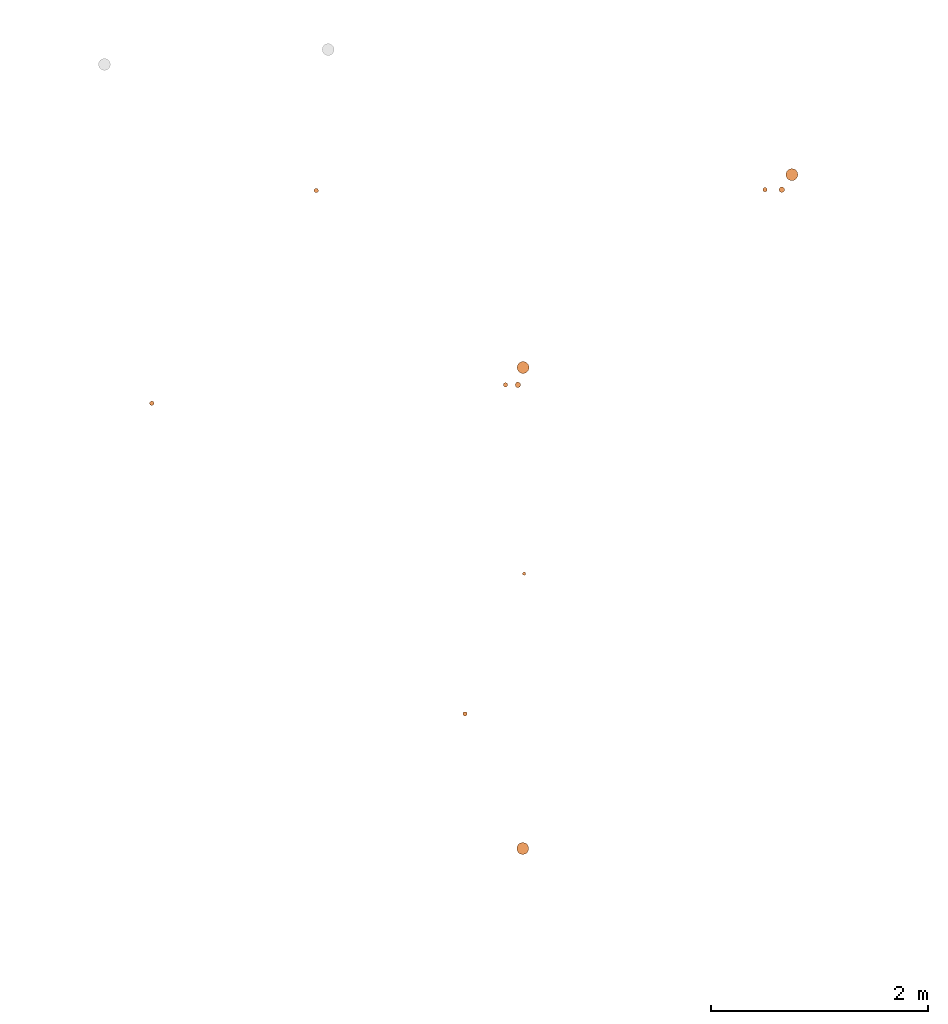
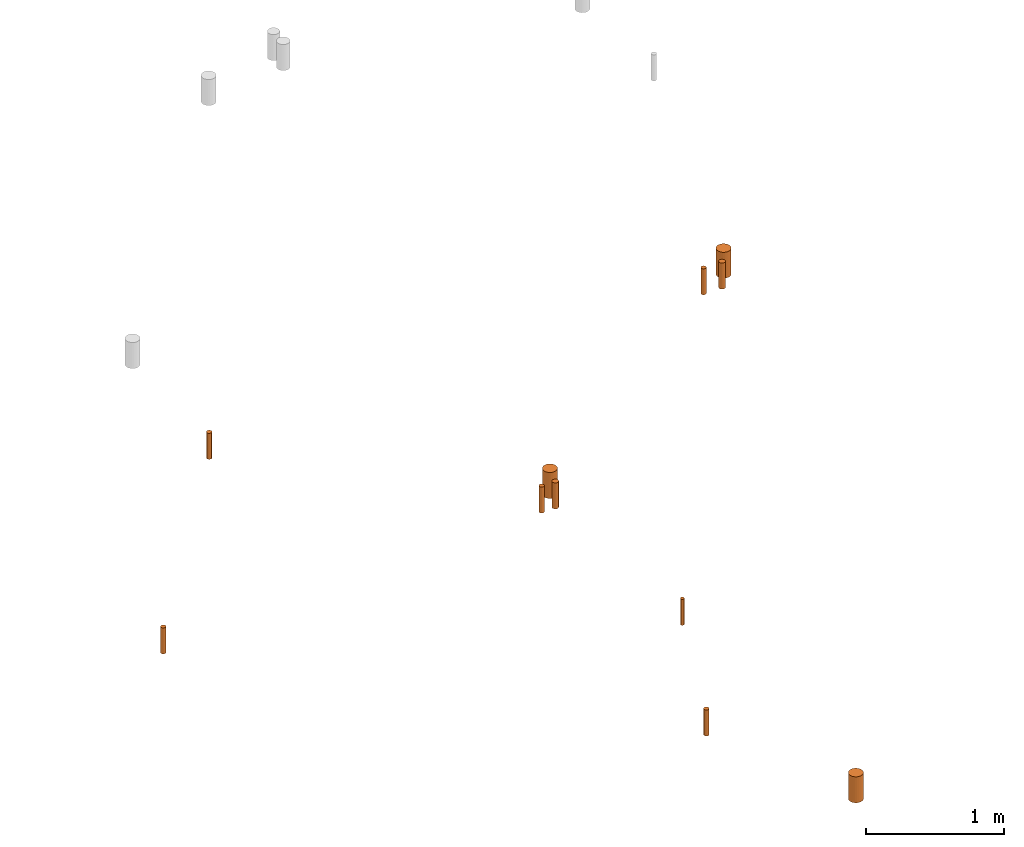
# One storey, part 2 of 16: 11 proxies.
"""IFC2X3 building model written with IfcOpenShell, lengths in centimetres."""

from ifc_helpers import new_model, entity, si_unit, converted_unit, derived_unit, direction, frame, origin, origin_2d_with_axis, place, context, subcontext, project, spatial, circle, extrude, source, transform, mapped, material, type_object, type_shapes, element, save


model = new_model("IFC2X3")

# Units and contexts
model_context = context("Model", 3, precision=0.001, world=origin(), true_north=direction((6.12303176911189e-17, 1.0)))
body_context = subcontext(model_context, "Body", "Model", "MODEL_VIEW")
ifc_project = project(units=[si_unit("LENGTHUNIT", "METRE", prefix="CENTI"), si_unit("AREAUNIT", "SQUARE_METRE"), si_unit("VOLUMEUNIT", "CUBIC_METRE"), converted_unit("PLANEANGLEUNIT", "DEGREE", entity("IfcRatioMeasure", 0.0174532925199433), si_unit("PLANEANGLEUNIT", "RADIAN"), dimensions=[0, 0, 0, 0, 0, 0, 0]), si_unit("MASSUNIT", "GRAM", prefix="KILO"), derived_unit("MASSDENSITYUNIT", [(si_unit("MASSUNIT", "GRAM", prefix="KILO"), 1), (si_unit("LENGTHUNIT", "METRE"), -3)]), si_unit("TIMEUNIT", "SECOND"), si_unit("FREQUENCYUNIT", "HERTZ"), si_unit("THERMODYNAMICTEMPERATUREUNIT", "DEGREE_CELSIUS"), derived_unit("THERMALTRANSMITTANCEUNIT", [(si_unit("MASSUNIT", "GRAM", prefix="KILO"), 1), (si_unit("THERMODYNAMICTEMPERATUREUNIT", "KELVIN"), -1), (si_unit("TIMEUNIT", "SECOND"), -3)]), derived_unit("VOLUMETRICFLOWRATEUNIT", [(si_unit("LENGTHUNIT", "METRE"), 3), (si_unit("TIMEUNIT", "SECOND"), -1)]), si_unit("ELECTRICCURRENTUNIT", "AMPERE"), si_unit("ELECTRICVOLTAGEUNIT", "VOLT"), si_unit("POWERUNIT", "WATT"), si_unit("FORCEUNIT", "NEWTON"), si_unit("ILLUMINANCEUNIT", "LUX"), si_unit("LUMINOUSFLUXUNIT", "LUMEN"), si_unit("LUMINOUSINTENSITYUNIT", "CANDELA"), derived_unit("USERDEFINED", [(si_unit("MASSUNIT", "GRAM", prefix="KILO"), -1), (si_unit("LENGTHUNIT", "METRE"), -2), (si_unit("TIMEUNIT", "SECOND"), 3), (si_unit("LUMINOUSFLUXUNIT", "LUMEN"), 1)]), derived_unit("LINEARVELOCITYUNIT", [(si_unit("LENGTHUNIT", "METRE"), 1), (si_unit("TIMEUNIT", "SECOND"), -1)]), si_unit("PRESSUREUNIT", "PASCAL"), derived_unit("USERDEFINED", [(si_unit("LENGTHUNIT", "METRE"), -2), (si_unit("MASSUNIT", "GRAM", prefix="KILO"), 1), (si_unit("TIMEUNIT", "SECOND"), -2)])], contexts=[model_context])

# Site, building, storey
site_placement = place(None, origin())
site = spatial("IfcSite", under=ifc_project, at=site_placement, Name="Default", CompositionType="ELEMENT")
building_placement = place(site_placement, origin())
building = spatial("IfcBuilding", under=site, at=building_placement, Name="CAGE 03", CompositionType="ELEMENT")
storey_placement = place(building_placement, frame((0.0, 0.0, 65.0)))
storey = spatial("IfcBuildingStorey", under=building, at=storey_placement, Name="Ac RDC", CompositionType="ELEMENT", Elevation=64.9999999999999)

# Proxies
ifc_material = material(Name="BBGO_Résa")
building_element_proxy_type_1 = type_object("IfcBuildingElementProxyType", Name="Ø40", PredefinedType="NOTDEFINED", material=ifc_material)
shared_shape_1 = source(origin(), body_context, "Body", "SweptSolid", [
    extrude(circle(Radius=2.0, at=origin_2d_with_axis()), frame((3783.7053778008, 3913.19907538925, 317.0)), (0.0, 0.0, 1.0), 22.9999999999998),
])
type_shapes(building_element_proxy_type_1, [shared_shape_1])
proxy_1_placement = place(storey_placement, frame((0.0, 0.0, -65.0)))
element("IfcBuildingElementProxy", 1, at=proxy_1_placement, inside=storey, type_object=building_element_proxy_type_1, material=ifc_material, Name="BBGO-Résa circ dalle:Ø40", ObjectType="Ø40", context=body_context, shape_type="MappedRepresentation", body=[
    mapped(shared_shape_1, transform((0.0, 0.0, 0.0), scale=1.0)),
])
building_element_proxy_type_2 = type_object("IfcBuildingElementProxyType", Name="Ø40", PredefinedType="NOTDEFINED", material=ifc_material)
shared_shape_2 = source(origin(), body_context, "Body", "SweptSolid", [
    extrude(circle(Radius=2.0, at=origin_2d_with_axis()), frame((3935.56839524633, 4109.68307899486, 317.0)), (0.0, 0.0, 1.0), 22.9999999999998),
])
type_shapes(building_element_proxy_type_2, [shared_shape_2])
proxy_2_placement = place(storey_placement, frame((0.0, 0.0, -65.0)))
element("IfcBuildingElementProxy", 2, at=proxy_2_placement, inside=storey, type_object=building_element_proxy_type_2, material=ifc_material, Name="BBGO-Résa circ dalle:Ø40", ObjectType="Ø40", context=body_context, shape_type="MappedRepresentation", body=[
    mapped(shared_shape_2, transform((0.0, 0.0, 0.0), scale=1.0)),
])
building_element_proxy_type_3 = type_object("IfcBuildingElementProxyType", Name="Ø110", PredefinedType="NOTDEFINED", material=ifc_material)
shared_shape_3 = source(origin(), body_context, "Body", "SweptSolid", [
    extrude(circle(Radius=5.5, at=origin_2d_with_axis()), frame((4126.59427383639, 3946.26409132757, 317.0)), (0.0, 0.0, 1.0), 22.9999999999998),
])
type_shapes(building_element_proxy_type_3, [shared_shape_3])
proxy_3_placement = place(storey_placement, frame((0.0, 0.0, -65.0)))
element("IfcBuildingElementProxy", 3, at=proxy_3_placement, inside=storey, type_object=building_element_proxy_type_3, material=ifc_material, Name="BBGO-Résa circ dalle:Ø110", ObjectType="Ø110", context=body_context, shape_type="MappedRepresentation", body=[
    mapped(shared_shape_3, transform((0.0, 0.0, 0.0), scale=1.0)),
])
building_element_proxy_type_4 = type_object("IfcBuildingElementProxyType", Name="Ø50", PredefinedType="NOTDEFINED", material=ifc_material)
shared_shape_4 = source(origin(), body_context, "Body", "SweptSolid", [
    extrude(circle(Radius=2.5, at=origin_2d_with_axis()), frame((4121.86095118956, 3930.24764274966, 317.0)), (0.0, 0.0, 1.0), 22.9999999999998),
])
type_shapes(building_element_proxy_type_4, [shared_shape_4])
proxy_4_placement = place(storey_placement, frame((0.0, 0.0, -65.0)))
element("IfcBuildingElementProxy", 4, at=proxy_4_placement, inside=storey, type_object=building_element_proxy_type_4, material=ifc_material, Name="BBGO-Résa circ dalle:Ø50", ObjectType="Ø50", context=body_context, shape_type="MappedRepresentation", body=[
    mapped(shared_shape_4, transform((0.0, 0.0, 0.0), scale=1.0)),
])
building_element_proxy_type_5 = type_object("IfcBuildingElementProxyType", Name="Ø40", PredefinedType="NOTDEFINED", material=ifc_material)
shared_shape_5 = source(origin(), body_context, "Body", "SweptSolid", [
    extrude(circle(Radius=2.0, at=origin_2d_with_axis()), frame((4110.36095118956, 3930.24764274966, 317.0)), (0.0, 0.0, 1.0), 22.9999999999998),
])
type_shapes(building_element_proxy_type_5, [shared_shape_5])
proxy_5_placement = place(storey_placement, frame((0.0, 0.0, -65.0)))
element("IfcBuildingElementProxy", 5, at=proxy_5_placement, inside=storey, type_object=building_element_proxy_type_5, material=ifc_material, Name="BBGO-Résa circ dalle:Ø40", ObjectType="Ø40", context=body_context, shape_type="MappedRepresentation", body=[
    mapped(shared_shape_5, transform((0.0, 0.0, 0.0), scale=1.0)),
])
building_element_proxy_type_6 = type_object("IfcBuildingElementProxyType", Name="Ø30", PredefinedType="NOTDEFINED", material=ifc_material)
shared_shape_6 = source(origin(), body_context, "Body", "SweptSolid", [
    extrude(circle(Radius=1.5, at=origin_2d_with_axis()), frame((4127.55382029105, 3755.84880950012, 317.0)), (0.0, 0.0, 1.0), 22.9999999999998),
])
type_shapes(building_element_proxy_type_6, [shared_shape_6])
proxy_6_placement = place(storey_placement, frame((0.0, 0.0, -65.0)))
element("IfcBuildingElementProxy", 6, at=proxy_6_placement, inside=storey, type_object=building_element_proxy_type_6, material=ifc_material, Name="BBGO-Résa circ dalle:Ø30", ObjectType="Ø30", context=body_context, shape_type="MappedRepresentation", body=[
    mapped(shared_shape_6, transform((0.0, 0.0, 0.0), scale=1.0)),
])
building_element_proxy_type_7 = type_object("IfcBuildingElementProxyType", Name="Ø40", PredefinedType="NOTDEFINED", material=ifc_material)
shared_shape_7 = source(origin(), body_context, "Body", "SweptSolid", [
    extrude(circle(Radius=2.0, at=origin_2d_with_axis()), frame((4072.94372120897, 3626.31719749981, 317.0)), (0.0, 0.0, 1.0), 22.9999999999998),
])
type_shapes(building_element_proxy_type_7, [shared_shape_7])
proxy_7_placement = place(storey_placement, frame((0.0, 0.0, -65.0)))
element("IfcBuildingElementProxy", 7, at=proxy_7_placement, inside=storey, type_object=building_element_proxy_type_7, material=ifc_material, Name="BBGO-Résa circ dalle:Ø40", ObjectType="Ø40", context=body_context, shape_type="MappedRepresentation", body=[
    mapped(shared_shape_7, transform((0.0, 0.0, 0.0), scale=1.0)),
])
building_element_proxy_type_8 = type_object("IfcBuildingElementProxyType", Name="Ø110", PredefinedType="NOTDEFINED", material=ifc_material)
shared_shape_8 = source(origin(), body_context, "Body", "SweptSolid", [
    extrude(circle(Radius=5.5, at=origin_2d_with_axis()), frame((4126.31848078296, 3502.00063077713, 317.0)), (0.0, 0.0, 1.0), 22.9999999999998),
])
type_shapes(building_element_proxy_type_8, [shared_shape_8])
proxy_8_placement = place(storey_placement, frame((0.0, 0.0, -65.0)))
element("IfcBuildingElementProxy", 8, at=proxy_8_placement, inside=storey, type_object=building_element_proxy_type_8, material=ifc_material, Name="BBGO-Résa circ dalle:Ø110", ObjectType="Ø110", context=body_context, shape_type="MappedRepresentation", body=[
    mapped(shared_shape_8, transform((0.0, 0.0, 0.0), scale=1.0)),
])
building_element_proxy_type_9 = type_object("IfcBuildingElementProxyType", Name="Ø110", PredefinedType="NOTDEFINED", material=ifc_material)
shared_shape_9 = source(origin(), body_context, "Body", "SweptSolid", [
    extrude(circle(Radius=5.5, at=origin_2d_with_axis()), frame((4374.87543615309, 4124.40339449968, 317.0)), (0.0, 0.0, 1.0), 22.9999999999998),
])
type_shapes(building_element_proxy_type_9, [shared_shape_9])
proxy_9_placement = place(storey_placement, frame((0.0, 0.0, -65.0)))
element("IfcBuildingElementProxy", 9, at=proxy_9_placement, inside=storey, type_object=building_element_proxy_type_9, material=ifc_material, Name="BBGO-Résa circ dalle:Ø110", ObjectType="Ø110", context=body_context, shape_type="MappedRepresentation", body=[
    mapped(shared_shape_9, transform((0.0, 0.0, 0.0), scale=1.0)),
])
building_element_proxy_type_10 = type_object("IfcBuildingElementProxyType", Name="Ø50", PredefinedType="NOTDEFINED", material=ifc_material)
shared_shape_10 = source(origin(), body_context, "Body", "SweptSolid", [
    extrude(circle(Radius=2.5, at=origin_2d_with_axis()), frame((4365.58327257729, 4110.509063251, 317.0)), (0.0, 0.0, 1.0), 22.9999999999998),
])
type_shapes(building_element_proxy_type_10, [shared_shape_10])
proxy_10_placement = place(storey_placement, frame((0.0, 0.0, -65.0)))
element("IfcBuildingElementProxy", 10, at=proxy_10_placement, inside=storey, type_object=building_element_proxy_type_10, material=ifc_material, Name="BBGO-Résa circ dalle:Ø50", ObjectType="Ø50", context=body_context, shape_type="MappedRepresentation", body=[
    mapped(shared_shape_10, transform((0.0, 0.0, 0.0), scale=1.0)),
])
building_element_proxy_type_11 = type_object("IfcBuildingElementProxyType", Name="Ø40", PredefinedType="NOTDEFINED", material=ifc_material)
shared_shape_11 = source(origin(), body_context, "Body", "SweptSolid", [
    extrude(circle(Radius=2.0, at=origin_2d_with_axis()), frame((4350.08327257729, 4110.509063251, 317.0)), (0.0, 0.0, 1.0), 22.9999999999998),
])
type_shapes(building_element_proxy_type_11, [shared_shape_11])
proxy_11_placement = place(storey_placement, frame((0.0, 0.0, -65.0)))
element("IfcBuildingElementProxy", 11, at=proxy_11_placement, inside=storey, type_object=building_element_proxy_type_11, material=ifc_material, Name="BBGO-Résa circ dalle:Ø40", ObjectType="Ø40", context=body_context, shape_type="MappedRepresentation", body=[
    mapped(shared_shape_11, transform((0.0, 0.0, 0.0), scale=1.0)),
])

save(model, "model.ifc")
